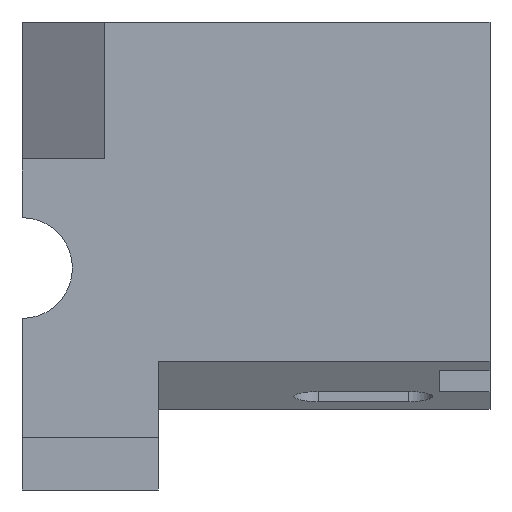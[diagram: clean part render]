
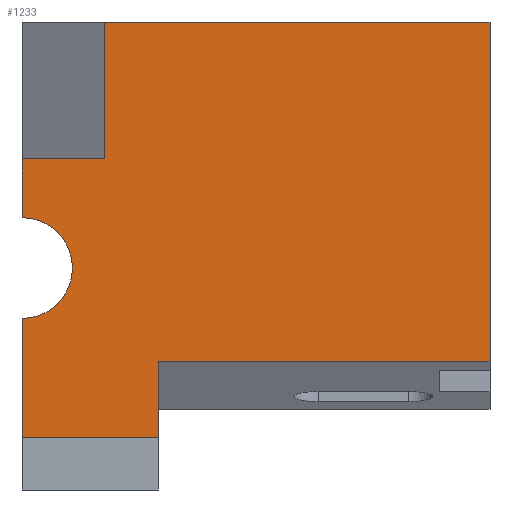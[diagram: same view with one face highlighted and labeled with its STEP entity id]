
A CAD part, left-side view. The second image highlights one B-rep face of the part: STEP entity #1233.
In plain terms, the highlighted planar face has unit normal (-1, 0, 0).
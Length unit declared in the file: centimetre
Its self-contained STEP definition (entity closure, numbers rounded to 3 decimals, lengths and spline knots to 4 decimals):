
#6 = VECTOR ( 'NONE', #933, 100. ) ;
#29 = EDGE_CURVE ( 'NONE', #650, #343, #1137, .T. ) ;
#36 = DIRECTION ( 'NONE',  ( 0., -1., 0. ) ) ;
#37 = VERTEX_POINT ( 'NONE', #79 ) ;
#41 = DIRECTION ( 'NONE',  ( 0., 0., 1. ) ) ;
#79 = CARTESIAN_POINT ( 'NONE',  ( 0., 0., 1000. ) ) ;
#100 = DIRECTION ( 'NONE',  ( 0., 0., -1. ) ) ;
#110 = CARTESIAN_POINT ( 'NONE',  ( 0., 1000., 111.889 ) ) ;
#118 = DIRECTION ( 'NONE',  ( 1., 0., 0. ) ) ;
#132 = FACE_OUTER_BOUND ( 'NONE', #812, .T. ) ;
#136 = ORIENTED_EDGE ( 'NONE', *, *, #556, .T. ) ;
#210 = LINE ( 'NONE', #417, #1160 ) ;
#215 = DIRECTION ( 'NONE',  ( 0., 0., -1. ) ) ;
#228 = VECTOR ( 'NONE', #674, 100. ) ;
#281 = CARTESIAN_POINT ( 'NONE',  ( 0., 1000., 707.5959 ) ) ;
#312 = ORIENTED_EDGE ( 'NONE', *, *, #1176, .F. ) ;
#318 = LINE ( 'NONE', #799, #979 ) ;
#343 = VERTEX_POINT ( 'NONE', #961 ) ;
#368 = CARTESIAN_POINT ( 'NONE',  ( 0., 1000., 366.5017 ) ) ;
#378 = LINE ( 'NONE', #866, #1083 ) ;
#400 = CARTESIAN_POINT ( 'NONE',  ( 0., 1000., 1000. ) ) ;
#417 = CARTESIAN_POINT ( 'NONE',  ( 0., 1000., 1000. ) ) ;
#420 = EDGE_CURVE ( 'NONE', #1085, #890, #591, .T. ) ;
#425 = EDGE_CURVE ( 'NONE', #917, #890, #462, .T. ) ;
#433 = EDGE_CURVE ( 'NONE', #917, #800, #210, .T. ) ;
#462 = CIRCLE ( 'NONE', #881, 107.7295 ) ;
#465 = CARTESIAN_POINT ( 'NONE',  ( 0., 1000., 707.5959 ) ) ;
#480 = AXIS2_PLACEMENT_3D ( 'NONE', #782, #118, #215 ) ;
#497 = CARTESIAN_POINT ( 'NONE',  ( 0., 1000., 581.9607 ) ) ;
#506 = ORIENTED_EDGE ( 'NONE', *, *, #543, .F. ) ;
#519 = EDGE_CURVE ( 'NONE', #718, #661, #657, .T. ) ;
#528 = ORIENTED_EDGE ( 'NONE', *, *, #420, .T. ) ;
#543 = EDGE_CURVE ( 'NONE', #1085, #650, #931, .T. ) ;
#545 = CARTESIAN_POINT ( 'NONE',  ( 0., 709.0713, 275.2413 ) ) ;
#555 = DIRECTION ( 'NONE',  ( 0., -1., 0. ) ) ;
#556 = EDGE_CURVE ( 'NONE', #718, #1119, #1122, .T. ) ;
#561 = VECTOR ( 'NONE', #1110, 100. ) ;
#574 = CARTESIAN_POINT ( 'NONE',  ( 0., 132.8493, 111.889 ) ) ;
#591 = LINE ( 'NONE', #400, #996 ) ;
#617 = ORIENTED_EDGE ( 'NONE', *, *, #425, .F. ) ;
#618 = PLANE ( 'NONE',  #480 ) ;
#650 = VERTEX_POINT ( 'NONE', #741 ) ;
#657 = LINE ( 'NONE', #545, #561 ) ;
#661 = VERTEX_POINT ( 'NONE', #947 ) ;
#674 = DIRECTION ( 'NONE',  ( 0., 1., 0. ) ) ;
#708 = ORIENTED_EDGE ( 'NONE', *, *, #29, .F. ) ;
#718 = VERTEX_POINT ( 'NONE', #868 ) ;
#741 = CARTESIAN_POINT ( 'NONE',  ( 0., 823.511, 707.5959 ) ) ;
#747 = CARTESIAN_POINT ( 'NONE',  ( 0., 709.0713, 275.2413 ) ) ;
#782 = CARTESIAN_POINT ( 'NONE',  ( 0., 1000., 1000. ) ) ;
#784 = CARTESIAN_POINT ( 'NONE',  ( 0., 1000., 474.2312 ) ) ;
#786 = EDGE_CURVE ( 'NONE', #661, #800, #952, .T. ) ;
#798 = DIRECTION ( 'NONE',  ( -1., 0., 0. ) ) ;
#799 = CARTESIAN_POINT ( 'NONE',  ( 0., 1000., 1000. ) ) ;
#800 = VERTEX_POINT ( 'NONE', #110 ) ;
#812 = EDGE_LOOP ( 'NONE', ( #528, #617, #834, #969, #907, #136, #312, #815, #708, #506 ) ) ;
#815 = ORIENTED_EDGE ( 'NONE', *, *, #851, .F. ) ;
#834 = ORIENTED_EDGE ( 'NONE', *, *, #433, .T. ) ;
#841 = DIRECTION ( 'NONE',  ( 0., -1., 0. ) ) ;
#851 = EDGE_CURVE ( 'NONE', #343, #37, #318, .T. ) ;
#855 = CARTESIAN_POINT ( 'NONE',  ( 0., 823.511, 707.5959 ) ) ;
#866 = CARTESIAN_POINT ( 'NONE',  ( 0., 0., 1000. ) ) ;
#868 = CARTESIAN_POINT ( 'NONE',  ( 0., 709.0713, 275.2413 ) ) ;
#881 = AXIS2_PLACEMENT_3D ( 'NONE', #784, #798, #41 ) ;
#890 = VERTEX_POINT ( 'NONE', #497 ) ;
#893 = DIRECTION ( 'NONE',  ( 0., 0., -1. ) ) ;
#907 = ORIENTED_EDGE ( 'NONE', *, *, #519, .F. ) ;
#917 = VERTEX_POINT ( 'NONE', #368 ) ;
#931 = LINE ( 'NONE', #465, #1043 ) ;
#933 = DIRECTION ( 'NONE',  ( 0., 0., 1. ) ) ;
#942 = VECTOR ( 'NONE', #555, 100. ) ;
#947 = CARTESIAN_POINT ( 'NONE',  ( 0., 709.0713, 111.889 ) ) ;
#952 = LINE ( 'NONE', #574, #228 ) ;
#961 = CARTESIAN_POINT ( 'NONE',  ( 0., 823.511, 1000. ) ) ;
#965 = CARTESIAN_POINT ( 'NONE',  ( 0., 0., 275.2413 ) ) ;
#969 = ORIENTED_EDGE ( 'NONE', *, *, #786, .F. ) ;
#978 = DIRECTION ( 'NONE',  ( 0., 0., -1. ) ) ;
#979 = VECTOR ( 'NONE', #36, 100. ) ;
#996 = VECTOR ( 'NONE', #893, 100. ) ;
#1043 = VECTOR ( 'NONE', #841, 100. ) ;
#1083 = VECTOR ( 'NONE', #100, 100. ) ;
#1085 = VERTEX_POINT ( 'NONE', #281 ) ;
#1110 = DIRECTION ( 'NONE',  ( 0., 0., -1. ) ) ;
#1119 = VERTEX_POINT ( 'NONE', #965 ) ;
#1122 = LINE ( 'NONE', #747, #942 ) ;
#1137 = LINE ( 'NONE', #855, #6 ) ;
#1160 = VECTOR ( 'NONE', #978, 100. ) ;
#1176 = EDGE_CURVE ( 'NONE', #37, #1119, #378, .T. ) ;
#1233 = ADVANCED_FACE ( 'NONE', ( #132 ), #618, .F. ) ;
